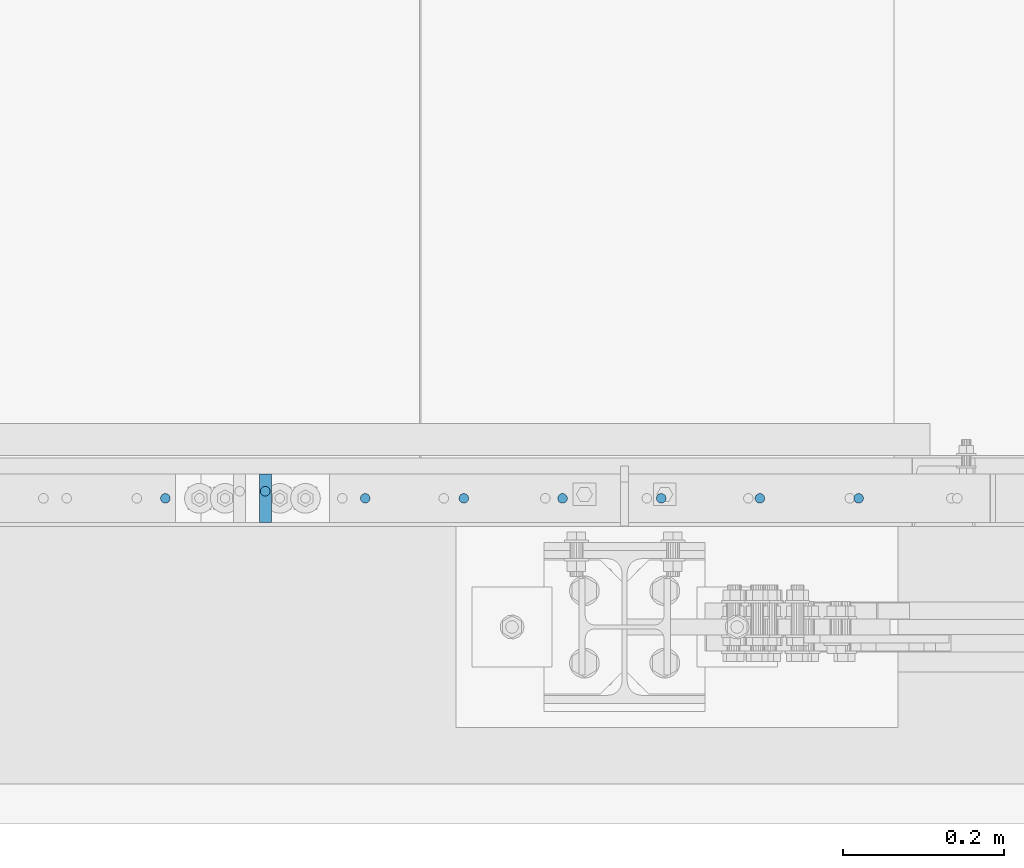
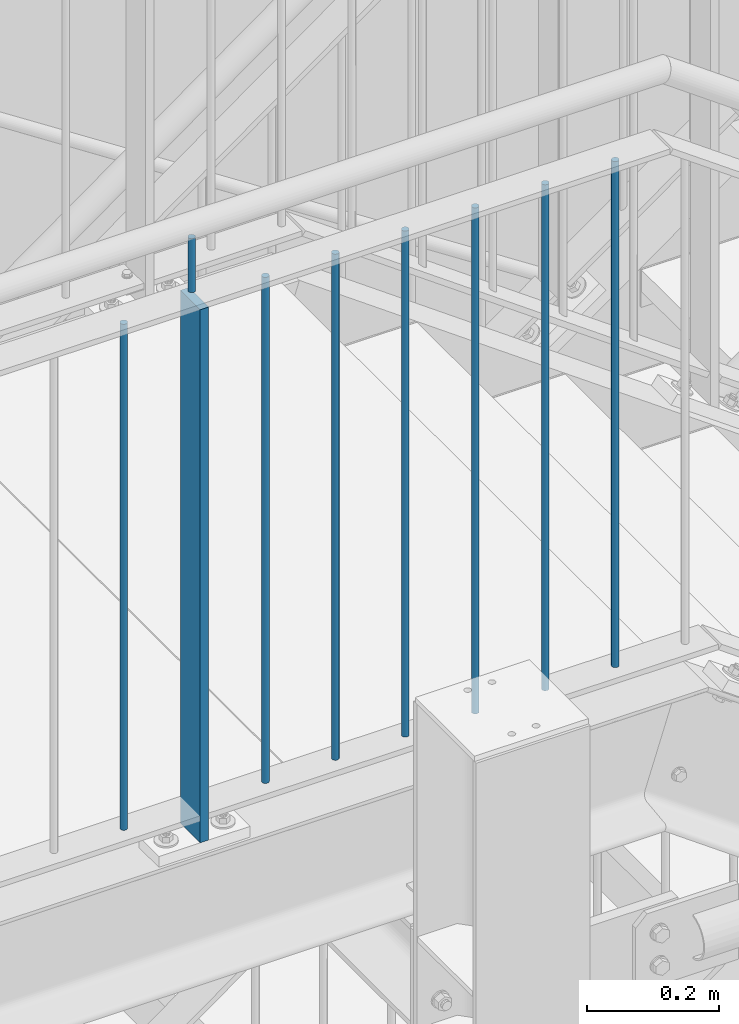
# One storey, part 12 of 825: 9 columns.
"""IFC2X3 building model written with IfcOpenShell, lengths in millimetres."""

from ifc_helpers import new_model, entity, si_unit, converted_unit, frame, origin, origin_with_axes, origin_2d, place, context, project, spatial, rectangle, circle, extrude, clip, halfspace, material, element, save


model = new_model("IFC2X3")

# Units and contexts
model_context = context("Model", 3, precision=1e-09, world=origin_with_axes())
ifc_project = project(units=[si_unit("LENGTHUNIT", "METRE", prefix="MILLI"), si_unit("AREAUNIT", "SQUARE_METRE"), si_unit("VOLUMEUNIT", "CUBIC_METRE"), converted_unit("PLANEANGLEUNIT", "DEGREE", entity("IfcPlaneAngleMeasure", 0.01745329), si_unit("PLANEANGLEUNIT", "RADIAN"), dimensions=[0, 0, 0, 0, 0, 0, 0])], contexts=[model_context])

# Site, building, storey
site_placement = place(None, origin_with_axes())
site = spatial("IfcSite", under=ifc_project, at=site_placement, Name="Cnopf'sche Kinderklinik", CompositionType="ELEMENT")
building_placement = place(site_placement, origin_with_axes())
building = spatial("IfcBuilding", under=site, at=building_placement, Name="Struktur 1", CompositionType="ELEMENT")
storey_placement = place(building_placement, origin_with_axes())
storey = spatial("IfcBuildingStorey", under=building, at=storey_placement, Name="Default Storey", CompositionType="ELEMENT", Elevation=0.0)

# Columns
ifc_material = material(Name="S235JR")
column_1_placement = place(None, frame((4409.791688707, 4526.736971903, 18873.723292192), z_axis=(0.0, 0.0, 1.0), x_axis=(-1.0, 0.0, 0.0)))
element("IfcColumn", 1, at=column_1_placement, inside=storey, material=ifc_material, Name="Railing_Post_Landing#12", ObjectType="Railing_Post_Landing#12", context=model_context, shape_type="Clipping", body=[
    clip(clip(extrude(rectangle(XDim=15.0, YDim=60.0, at=origin_2d()), origin(), (0.0, 0.0, -1.0), 1070.646584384), halfspace(frame((4409.791688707, 4526.736971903, -1019.722292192), z_axis=(0.0, 0.0, 1.0), x_axis=(-1.0, 0.0, 0.0)), True)), halfspace(frame((4409.791688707, 4526.736971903, -30.924292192), z_axis=(0.0, 0.0, -1.0), x_axis=(1.0, 0.0, 0.0)), True)),
])
column_2_placement = place(None, frame((5147.791807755, 4526.736971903, 18856.285281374), z_axis=(0.0, 0.0, 1.0), x_axis=(-1.0, 0.0, 0.0)))
element("IfcColumn", 2, at=column_2_placement, inside=storey, material=ifc_material, Name="Railing_Picket_Landing#77", ObjectType="Railing_Picket_Landing#77", context=model_context, shape_type="Clipping", body=[
    clip(clip(extrude(circle(Radius=6.0, at=origin_2d()), origin(), (0.0, 0.0, -1.0), 965.770562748), halfspace(frame((5147.791807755, 4526.736971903, -13.486281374), z_axis=(0.0, 0.0, -1.0), x_axis=(1.0, 0.0, 0.0)), True)), halfspace(frame((5147.791807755, 4526.736971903, -952.284281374), z_axis=(0.0, 0.0, 1.0), x_axis=(-1.0, 0.0, 0.0)), True)),
])
column_3_placement = place(None, frame((5025.041783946, 4526.736971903, 18856.285281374), z_axis=(0.0, 0.0, 1.0), x_axis=(-1.0, 0.0, 0.0)))
element("IfcColumn", 3, at=column_3_placement, inside=storey, material=ifc_material, Name="Railing_Picket_Landing#78", ObjectType="Railing_Picket_Landing#78", context=model_context, shape_type="Clipping", body=[
    clip(clip(extrude(circle(Radius=6.0, at=origin_2d()), origin(), (0.0, 0.0, -1.0), 965.770562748), halfspace(frame((5025.041783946, 4526.736971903, -13.486281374), z_axis=(0.0, 0.0, -1.0), x_axis=(1.0, 0.0, 0.0)), True)), halfspace(frame((5025.041783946, 4526.736971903, -952.284281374), z_axis=(0.0, 0.0, 1.0), x_axis=(-1.0, 0.0, 0.0)), True)),
])
column_4_placement = place(None, frame((4902.291760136, 4526.736971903, 18856.285281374), z_axis=(0.0, 0.0, 1.0), x_axis=(-1.0, 0.0, 0.0)))
element("IfcColumn", 4, at=column_4_placement, inside=storey, material=ifc_material, Name="Railing_Picket_Landing#79", ObjectType="Railing_Picket_Landing#79", context=model_context, shape_type="Clipping", body=[
    clip(clip(extrude(circle(Radius=6.0, at=origin_2d()), origin(), (0.0, 0.0, -1.0), 965.770562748), halfspace(frame((4902.291760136, 4526.736971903, -13.486281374), z_axis=(0.0, 0.0, -1.0), x_axis=(1.0, 0.0, 0.0)), True)), halfspace(frame((4902.291760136, 4526.736971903, -952.284281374), z_axis=(0.0, 0.0, 1.0), x_axis=(-1.0, 0.0, 0.0)), True)),
])
column_5_placement = place(None, frame((4779.541736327, 4526.736971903, 18856.285281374), z_axis=(0.0, 0.0, 1.0), x_axis=(-1.0, 0.0, 0.0)))
element("IfcColumn", 5, at=column_5_placement, inside=storey, material=ifc_material, Name="Railing_Picket_Landing#80", ObjectType="Railing_Picket_Landing#80", context=model_context, shape_type="Clipping", body=[
    clip(clip(extrude(circle(Radius=6.0, at=origin_2d()), origin(), (0.0, 0.0, -1.0), 965.770562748), halfspace(frame((4779.541736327, 4526.736971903, -13.486281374), z_axis=(0.0, 0.0, -1.0), x_axis=(1.0, 0.0, 0.0)), True)), halfspace(frame((4779.541736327, 4526.736971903, -952.284281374), z_axis=(0.0, 0.0, 1.0), x_axis=(-1.0, 0.0, 0.0)), True)),
])
column_6_placement = place(None, frame((4656.791712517, 4526.736971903, 18856.285281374), z_axis=(0.0, 0.0, 1.0), x_axis=(-1.0, 0.0, 0.0)))
element("IfcColumn", 6, at=column_6_placement, inside=storey, material=ifc_material, Name="Railing_Picket_Landing#81", ObjectType="Railing_Picket_Landing#81", context=model_context, shape_type="Clipping", body=[
    clip(clip(extrude(circle(Radius=6.0, at=origin_2d()), origin(), (0.0, 0.0, -1.0), 965.770562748), halfspace(frame((4656.791712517, 4526.736971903, -13.486281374), z_axis=(0.0, 0.0, -1.0), x_axis=(1.0, 0.0, 0.0)), True)), halfspace(frame((4656.791712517, 4526.736971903, -952.284281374), z_axis=(0.0, 0.0, 1.0), x_axis=(-1.0, 0.0, 0.0)), True)),
])
column_7_placement = place(None, frame((4534.041688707, 4526.736971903, 18856.285281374), z_axis=(0.0, 0.0, 1.0), x_axis=(-1.0, 0.0, 0.0)))
element("IfcColumn", 7, at=column_7_placement, inside=storey, material=ifc_material, Name="Railing_Picket_Landing#82", ObjectType="Railing_Picket_Landing#82", context=model_context, shape_type="Clipping", body=[
    clip(clip(extrude(circle(Radius=6.0, at=origin_2d()), origin(), (0.0, 0.0, -1.0), 965.770562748), halfspace(frame((4534.041688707, 4526.736971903, -13.486281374), z_axis=(0.0, 0.0, -1.0), x_axis=(1.0, 0.0, 0.0)), True)), halfspace(frame((4534.041688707, 4526.736971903, -952.284281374), z_axis=(0.0, 0.0, 1.0), x_axis=(-1.0, 0.0, 0.0)), True)),
])
column_8_placement = place(None, frame((4285.541688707, 4526.736971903, 18856.285281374), z_axis=(0.0, 0.0, 1.0), x_axis=(-1.0, 0.0, 0.0)))
element("IfcColumn", 8, at=column_8_placement, inside=storey, material=ifc_material, Name="Railing_Picket_Landing#83", ObjectType="Railing_Picket_Landing#83", context=model_context, shape_type="Clipping", body=[
    clip(clip(extrude(circle(Radius=6.0, at=origin_2d()), origin(), (0.0, 0.0, -1.0), 965.770562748), halfspace(frame((4285.541688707, 4526.736971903, -13.486281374), z_axis=(0.0, 0.0, -1.0), x_axis=(1.0, 0.0, 0.0)), True)), halfspace(frame((4285.541688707, 4526.736971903, -952.284281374), z_axis=(0.0, 0.0, 1.0), x_axis=(-1.0, 0.0, 0.0)), True)),
])
column_9_placement = place(None, frame((4409.791688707, 4535.536971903, 18961.285281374), z_axis=(0.0, 0.0, 1.0), x_axis=(0.0, 1.0, 0.0)))
element("IfcColumn", 9, at=column_9_placement, inside=storey, material=ifc_material, Name="Bar#12", ObjectType="Bar#12", context=model_context, shape_type="Clipping", body=[
    clip(clip(extrude(circle(Radius=6.0, at=origin_2d()), origin(), (0.0, 0.0, -1.0), 116.970562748), halfspace(frame((-4535.536971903, 4409.791688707, -8.486281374), z_axis=(0.0, 0.0, -1.0), x_axis=(0.0, 1.0, 0.0)), True)), halfspace(frame((-4535.536971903, 4409.791688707, -108.484281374), z_axis=(0.0, 0.0, 1.0), x_axis=(0.0, -1.0, 0.0)), True)),
])

save(model, "model.ifc")
